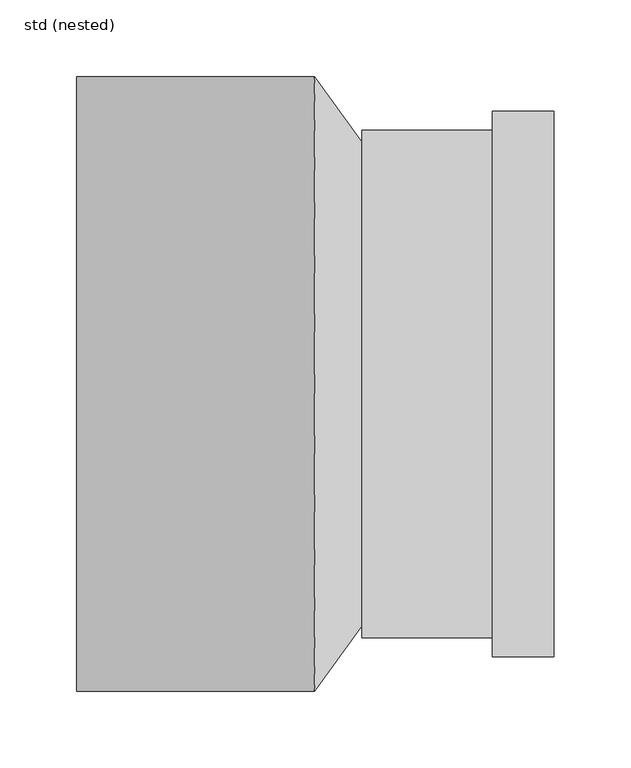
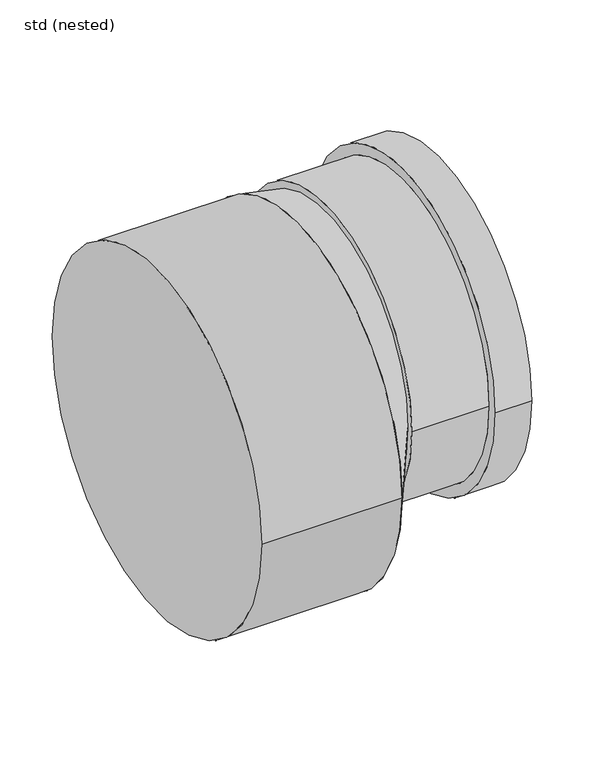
"""IFC4 building model written with IfcOpenShell, lengths in millimetres: pipe fitting geometry, NLRS_52_PIF_UN_SN4 SN8 verloop FM -SH_Dyka : std (nested)."""

from ifc_helpers import new_model, si_unit, point, frame, origin, origin_2d, place, context, project, spatial, polyline, circle_curve, trimmed, segment, composite_curve, outline, extrude, source, transform, mapped, element, save
from ifc_brep_helpers import plane_surface, cylinder_surface, revolved_surface, spline_surface, advanced_brep


def std_nested_19658d82(model_context):
    return source(origin(), model_context, "Body", "SolidModel", [
        advanced_brep(
        [(311.0, 177.5, 45.0), (311.0, -177.5, 45.0), (311.0, 157.5, 45.0), (311.0, -157.5, 45.0), (271.0, 157.5, 45.0), (271.0, -157.5, 45.0), (271.0, 177.5, 45.0), (271.0, -177.5, 45.0), (186.0, 165.2, 45.0), (186.0, -165.2, 45.0), (186.0, 157.5, 45.0), (186.0, -157.5, 45.0), (271.0, -165.2, 45.0), (271.0, 165.2, 45.0)],
        [
            (0, 1, circle_curve(frame((311.0, 0.0, 45.0), z_axis=(1.0, 0.0, 0.0), x_axis=(0.0, -1.0, 0.0)), 177.5)),
            (1, 0, circle_curve(frame((311.0, 0.0, 45.0), z_axis=(1.0, 0.0, 0.0), x_axis=(0.0, -1.0, 0.0)), 177.5)),
            (2, 3, circle_curve(frame((311.0, 0.0, 45.0), z_axis=(-1.0, 0.0, 0.0), x_axis=(0.0, -1.0, 0.0)), 157.5)),
            (3, 2, circle_curve(frame((311.0, 0.0, 45.0), z_axis=(-1.0, 0.0, 0.0), x_axis=(0.0, -1.0, 0.0)), 157.5)),
            (2, 4),
            (4, 5, circle_curve(frame((271.0, 0.0, 45.0), z_axis=(-1.0, 0.0, 0.0), x_axis=(0.0, -1.0, 0.0)), 157.5)),
            (5, 3),
            (5, 4, circle_curve(frame((271.0, 0.0, 45.0), z_axis=(-1.0, 0.0, 0.0), x_axis=(0.0, -1.0, 0.0)), 157.5)),
            (0, 6),
            (6, 7, circle_curve(frame((271.0, 0.0, 45.0), z_axis=(1.0, 0.0, 0.0), x_axis=(0.0, -1.0, 0.0)), 177.5)),
            (7, 1),
            (7, 6, circle_curve(frame((271.0, 0.0, 45.0), z_axis=(1.0, 0.0, 0.0), x_axis=(0.0, -1.0, 0.0)), 177.5)),
            (8, 9, circle_curve(frame((186.0, 0.0, 45.0), z_axis=(-1.0, 0.0, 0.0), x_axis=(0.0, -1.0, 0.0)), 165.2)),
            (9, 8, circle_curve(frame((186.0, 0.0, 45.0), z_axis=(-1.0, 0.0, 0.0), x_axis=(0.0, -1.0, 0.0)), 165.2)),
            (10, 11, circle_curve(frame((186.0, 0.0, 45.0), z_axis=(1.0, 0.0, 0.0), x_axis=(0.0, -1.0, 0.0)), 157.5)),
            (11, 10, circle_curve(frame((186.0, 0.0, 45.0), z_axis=(1.0, 0.0, 0.0), x_axis=(0.0, -1.0, 0.0)), 157.5)),
            (11, 5),
            (4, 10),
            (9, 12),
            (12, 13, circle_curve(frame((271.0, 0.0, 45.0), z_axis=(-1.0, 0.0, 0.0), x_axis=(0.0, -1.0, 0.0)), 165.2)),
            (13, 8),
            (13, 12, circle_curve(frame((271.0, 0.0, 45.0), z_axis=(-1.0, 0.0, 0.0), x_axis=(0.0, -1.0, 0.0)), 165.2)),
        ],
        [
            plane_surface(frame((311.0, -157.5, 45.0), z_axis=(1.0, 0.0, 0.0), x_axis=(0.0, 0.0, 1.0))),
            revolved_surface(polyline([(271.0, -157.5, 45.0), (311.0, -157.5, 45.0)]), (271.0, 0.0, 45.0), (-1.0, 0.0, 0.0)),
            cylinder_surface(frame((186.0, 0.0, 45.0), z_axis=(1.0, 0.0, 0.0), x_axis=(0.0, -1.0, 0.0)), 177.5),
            plane_surface(frame((186.0, -157.5, 45.0), z_axis=(-1.0, 0.0, 0.0), x_axis=(0.0, 0.0, -1.0))),
            revolved_surface(polyline([(186.0, -157.5, 45.0), (271.0, -157.5, 45.0)]), (186.0, 0.0, 45.0), (-1.0, 0.0, 0.0)),
            cylinder_surface(frame((186.0, 0.0, 45.0), z_axis=(1.0, 0.0, 0.0), x_axis=(0.0, -1.0, 0.0)), 165.2),
            plane_surface(frame((271.0, -157.5, 45.0), z_axis=(-1.0, 0.0, 0.0), x_axis=(0.0, 0.0, -1.0))),
        ],
        [
            (0, [[1, 2], [3, 4]]),
            (1, [[-3, 5, 6, 7]]),
            (1, [[-4, -7, 8, -5]]),
            (2, [[-1, 9, 10, 11]]),
            (2, [[-2, -11, 12, -9]]),
            (3, [[13, 14], [15, 16]]),
            (4, [[-16, 17, -6, 18]]),
            (4, [[-15, -18, -8, -17]]),
            (5, [[-14, 19, 20, 21]]),
            (5, [[-13, -21, 22, -19]]),
            (6, [[-12, -10], [-20, -22]]),
        ],
    ),
        advanced_brep(
        [(186.0, -157.5, 45.0), (186.0, 157.5, 45.0), (155.0, -200.0, 0.0), (155.0, 200.0, 0.0)],
        [
            (0, 1, circle_curve(frame((186.0, 0.0, 45.0), z_axis=(1.0, 0.0, 0.0), x_axis=(0.0, 1.0, 0.0)), 157.5)),
            (1, 0, circle_curve(frame((186.0, 0.0, 45.0), z_axis=(1.0, 0.0, 0.0), x_axis=(0.0, 1.0, 0.0)), 157.5)),
            (2, 3, circle_curve(frame((155.0, 0.0, 0.0), z_axis=(-1.0, 0.0, 0.0), x_axis=(0.0, 1.0, 0.0)), 200.0)),
            (3, 2, circle_curve(frame((155.0, 0.0, 0.0), z_axis=(-1.0, 0.0, 0.0), x_axis=(0.0, 1.0, 0.0)), 200.0)),
            (3, 1),
            (0, 2),
        ],
        [
            plane_surface(frame((186.0, 0.0, 45.0), z_axis=(1.0, 0.0, 0.0), x_axis=(0.0, 0.0, -1.0))),
            plane_surface(frame((155.0, 0.0, 0.0), z_axis=(-1.0, 0.0, 0.0), x_axis=(0.0, 0.0, -1.0))),
            spline_surface(2, 1, [[(155.0, -200.0, 0.0), (186.0, -157.5, 45.0)], [(155.0, -200.0, -200.0), (186.0, -157.5, -112.5)], [(155.0, 0.0, -200.0), (186.0, 0.0, -112.5)], [(155.0, 200.0, -200.0), (186.0, 157.5, -112.5)], [(155.0, 200.0, 0.0), (186.0, 157.5, 45.0)]], [3, 2, 3], [2, 2], [0.0, 1.0, 2.0], [0.0, 1.0], weights=[[1.0, 1.0], [0.7071067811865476, 0.7071067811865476], [1.0, 1.0], [0.7071067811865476, 0.7071067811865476], [1.0, 1.0]]),
            spline_surface(2, 1, [[(155.0, 200.0, 0.0), (186.0, 157.5, 45.0)], [(155.0, 200.0, 200.0), (186.0, 157.5, 202.5)], [(155.0, 0.0, 200.0), (186.0, 0.0, 202.5)], [(155.0, -200.0, 200.0), (186.0, -157.5, 202.5)], [(155.0, -200.0, 0.0), (186.0, -157.5, 45.0)]], [3, 2, 3], [2, 2], [0.0, 1.0, 2.0], [0.0, 1.0], weights=[[1.0, 1.0], [0.7071067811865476, 0.7071067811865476], [1.0, 1.0], [0.7071067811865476, 0.7071067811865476], [1.0, 1.0]]),
        ],
        [
            (0, [[1, 2]]),
            (1, [[3, 4]]),
            (2, [[-4, 5, -1, 6]]),
            (3, [[-3, -6, -2, -5]]),
        ],
    ),
        extrude(outline(composite_curve([segment(trimmed(circle_curve(origin_2d(), 200.0), [point((-200.0, 0.0))], [point((200.0, 0.0))], False, "CARTESIAN"), True, "CONTINUOUS"), segment(trimmed(circle_curve(origin_2d(), 200.0), [point((200.0, 0.0))], [point((-200.0, 0.0))], False, "CARTESIAN"), True, "CONTINUOUS")], self_intersect=False)), frame((0.0, 0.0, 0.0), z_axis=(1.0, 0.0, 0.0), x_axis=(0.0, 1.0, 0.0)), (0.0, 0.0, 1.0), 155.0),
    ])


if __name__ == "__main__":
    model = new_model("IFC4")
    model_context = context("Model", 3, world=origin())
    ifc_project = project(units=[si_unit("LENGTHUNIT", "METRE", prefix="MILLI")], contexts=[model_context])
    site = spatial("IfcSite", under=ifc_project)
    building = spatial("IfcBuilding", under=site)
    placement = place(None, origin())
    std_nested_shape = std_nested_19658d82(model_context)
    element("IfcPipeFitting", 1, ObjectType="NLRS_52_PIF_UN_SN4 SN8 verloop FM -SH_Dyka : std (nested)", at=placement, inside=building, context=model_context, shape_type="MappedRepresentation", body=[
        mapped(std_nested_shape, transform((0.0, 0.0, 0.0), x_axis=(1.0, 0.0, 0.0), y_axis=(0.0, 1.0, 0.0), z_axis=(0.0, 0.0, 1.0))),
    ])
    save(model, "model.ifc")
